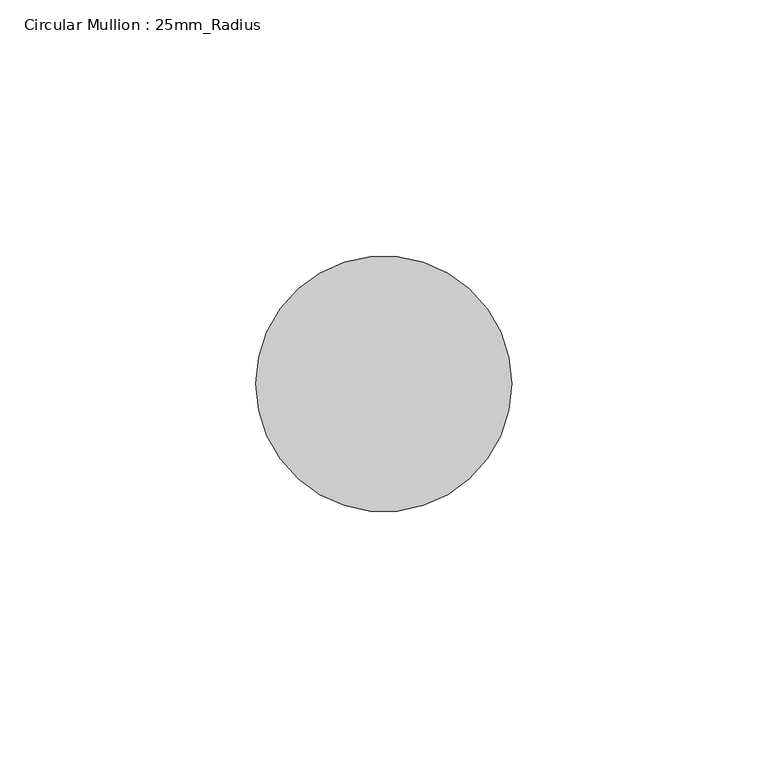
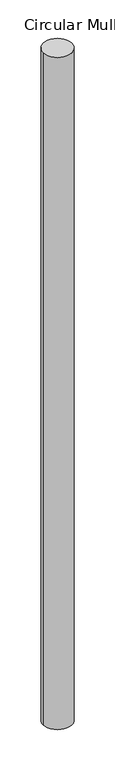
"""IFC4 building model written with IfcOpenShell, lengths in millimetres: member geometry, Circular Mullion : 25mm_Radius."""

from ifc_helpers import new_model, si_unit, point, frame, frame_2d, origin, place, context, project, spatial, circle_curve, trimmed, segment, composite_curve, outline, extrude, source, transform, mapped, element, save


def circular_mullion_25mm_radius_3794e113(model_context):
    return source(origin(), model_context, "Body", "SweptSolid", [
        extrude(outline(composite_curve([segment(trimmed(circle_curve(frame_2d((-25.0, 0.0)), 25.0), [point((0.0, 0.0))], [point((-50.0, 0.0))], False, "CARTESIAN"), True, "CONTINUOUS"), segment(trimmed(circle_curve(frame_2d((-25.0, 0.0)), 25.0), [point((-50.0, 0.0))], [point((0.0, 0.0))], False, "CARTESIAN"), True, "CONTINUOUS")], self_intersect=False)), frame((0.0, 0.0, -1230.802263), z_axis=(0.0, 0.0, 1.0), x_axis=(1.0, 0.0, 0.0)), (0.0, 0.0, 1.0), 1230.802263),
    ])


if __name__ == "__main__":
    model = new_model("IFC4")
    model_context = context("Model", 3, world=origin())
    ifc_project = project(units=[si_unit("LENGTHUNIT", "METRE", prefix="MILLI")], contexts=[model_context])
    site = spatial("IfcSite", under=ifc_project)
    building = spatial("IfcBuilding", under=site)
    placement = place(None, origin())
    circular_mullion_25mm_radius_shape = circular_mullion_25mm_radius_3794e113(model_context)
    element("IfcMember", 1, ObjectType="Circular Mullion : 25mm_Radius", at=placement, inside=building, context=model_context, shape_type="MappedRepresentation", body=[
        mapped(circular_mullion_25mm_radius_shape, transform((0.0, 0.0, 0.0), x_axis=(1.0, 0.0, 0.0), y_axis=(0.0, 1.0, 0.0), z_axis=(0.0, 0.0, 1.0))),
    ])
    save(model, "model.ifc")
